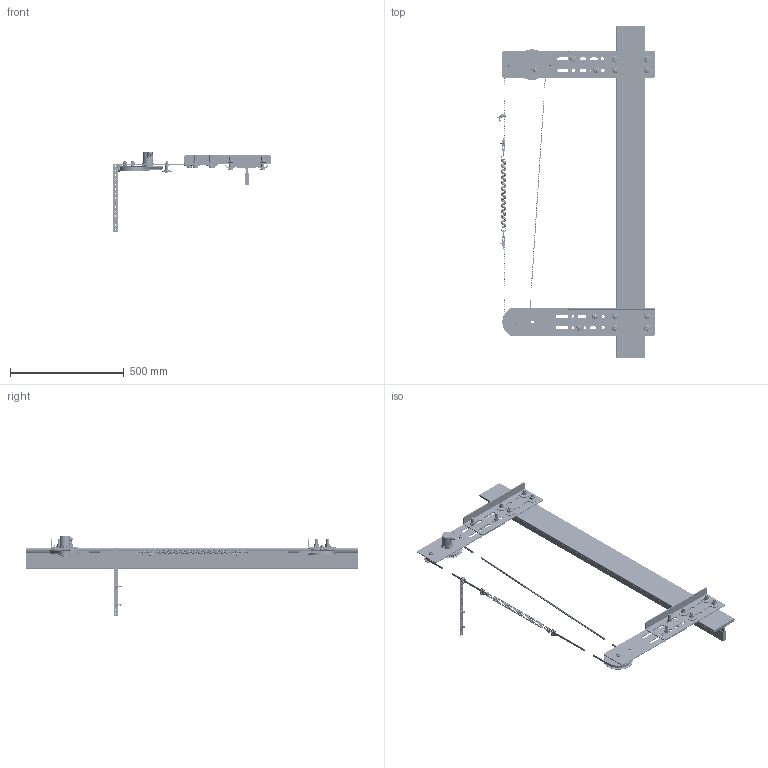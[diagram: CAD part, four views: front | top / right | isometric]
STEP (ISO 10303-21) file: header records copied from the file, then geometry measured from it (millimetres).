
FILE_DESCRIPTION (( 'STEP AP214' ), '1' );
FILE_NAME ('Disk-10A-Anbau.STEP', '2021-11-25T11:51:54', ( '' ), ( '' ), 'SwSTEP 2.0', 'SolidWorks 2021', '' );
FILE_SCHEMA (( 'AUTOMOTIVE_DESIGN' ));
Length unit declared in the file: millimetre
Products named in the file (1): Disk-10A-Anbau
Bounding box: 692.26 x 1460 x 352.1 mm (x, y, z)
Volume: 5820452.2 mm3; surface area: 1465487.7 mm2
Topology: 147 solids, 147 shells, 3818 faces, 8561 edges, 5308 vertices
Faces by surface type: plane 1655, cone 732, cylinder 715, torus 535, bspline 169, sphere 12
Full cylindrical faces by diameter (mm): 1.1 x8, 1.6 x8, 2 x4, 2.5 x3, 3 x8, 3.3 x11, 4 x23, 4.2 x2, 4.3 x4, 4.5 x16, 5 x19, 5.6 x4, 6 x2, 6.5 x26, 6.8 x1, 7 x9, 8 x9, 8.4 x4, 8.5 x5, 9 x4, 10 x11, 10.04 x8, 10.2 x12, 10.5 x1, 11 x1, 12 x27, 13 x9, 13.5 x14, 14 x9, 14.5 x1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
Entity records: 164711 total; most frequent: CARTESIAN_POINT 44532, DIRECTION 16023, ORIENTED_EDGE 13550, EDGE_CURVE 6775, AXIS2_PLACEMENT_3D 6742, EDGE_LOOP 5775, VERTEX_POINT 4840, FACE_OUTER_BOUND 4748
